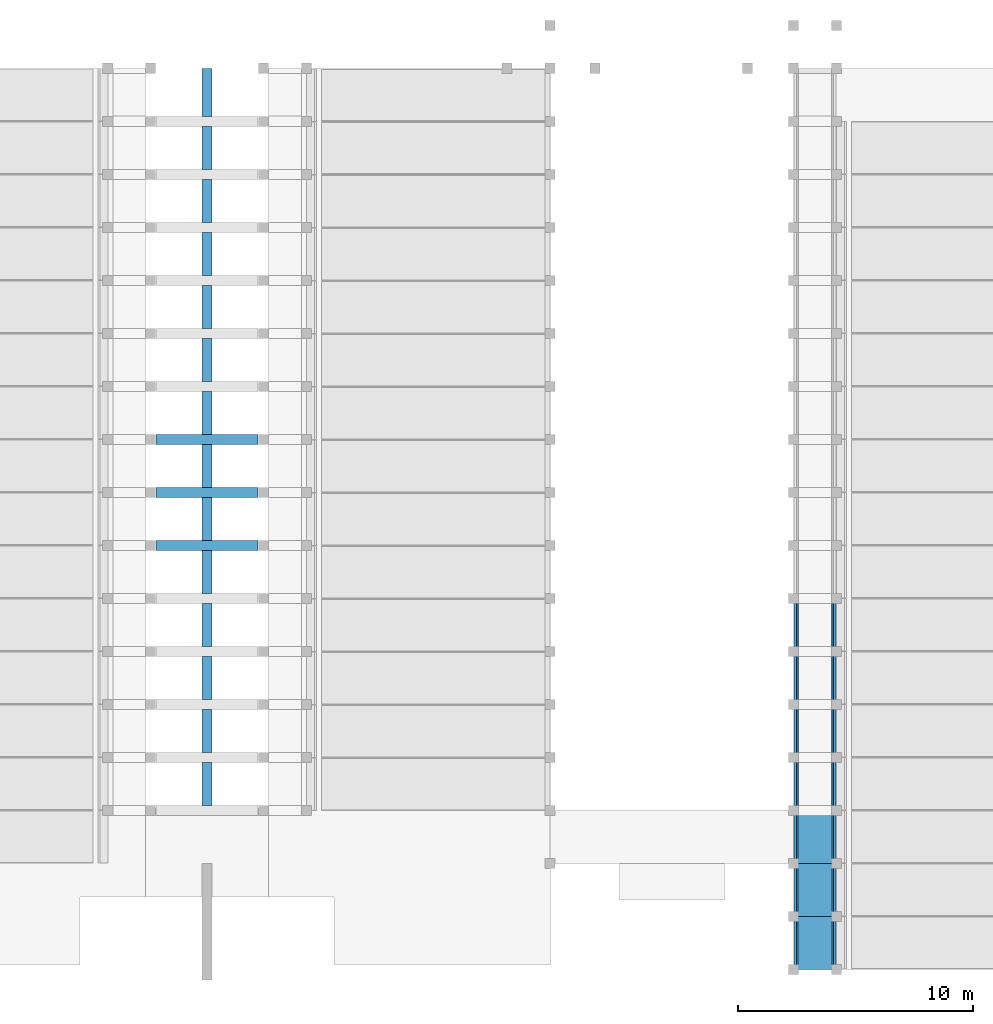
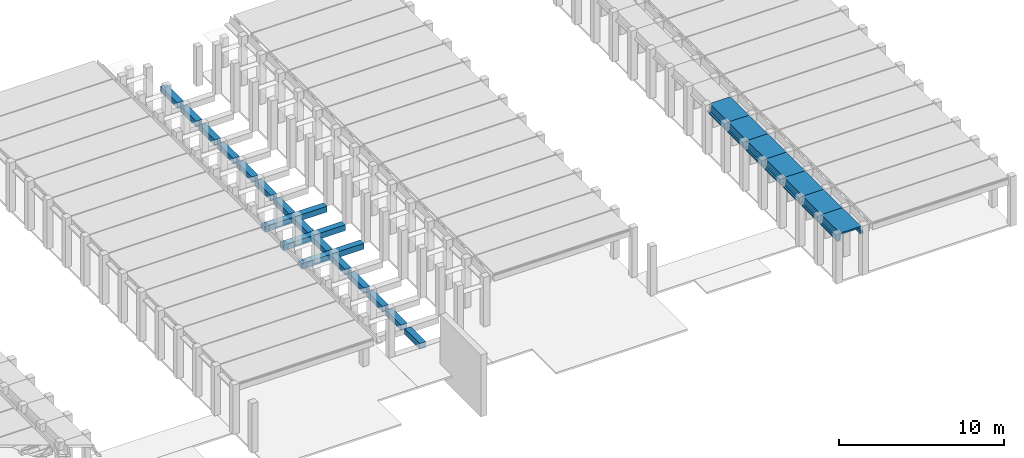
# One storey, part 9 of 18: 11 beams.
"""IFC2X3 building model written with IfcOpenShell, lengths in millimetres."""

from ifc_helpers import new_model, entity, si_unit, converted_unit, derived_unit, direction, frame, frame_2d, origin, place, context, subcontext, project, spatial, polyline, rectangle, outline, extrude, source, transform, mapped, material, type_object, type_shapes, element, save


model = new_model("IFC2X3")

# Units and contexts
model_context = context("Model", 3, precision=0.01, world=origin(), true_north=direction((6.12303176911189e-17, 1.0)))
body_context = subcontext(model_context, "Body", "Model", "MODEL_VIEW")
ifc_project = project(units=[si_unit("LENGTHUNIT", "METRE", prefix="MILLI"), si_unit("AREAUNIT", "SQUARE_METRE"), si_unit("VOLUMEUNIT", "CUBIC_METRE"), converted_unit("PLANEANGLEUNIT", "DEGREE", entity("IfcRatioMeasure", 0.0174532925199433), si_unit("PLANEANGLEUNIT", "RADIAN"), dimensions=[0, 0, 0, 0, 0, 0, 0]), si_unit("MASSUNIT", "GRAM", prefix="KILO"), derived_unit("MASSDENSITYUNIT", [(si_unit("MASSUNIT", "GRAM", prefix="KILO"), 1), (si_unit("LENGTHUNIT", "METRE"), -3)]), derived_unit("MOMENTOFINERTIAUNIT", [(si_unit("LENGTHUNIT", "METRE"), 4)]), si_unit("TIMEUNIT", "SECOND"), si_unit("FREQUENCYUNIT", "HERTZ"), si_unit("THERMODYNAMICTEMPERATUREUNIT", "DEGREE_CELSIUS"), derived_unit("THERMALTRANSMITTANCEUNIT", [(si_unit("MASSUNIT", "GRAM", prefix="KILO"), 1), (si_unit("THERMODYNAMICTEMPERATUREUNIT", "KELVIN"), -1), (si_unit("TIMEUNIT", "SECOND"), -3)]), derived_unit("VOLUMETRICFLOWRATEUNIT", [(si_unit("LENGTHUNIT", "METRE"), 3), (si_unit("TIMEUNIT", "SECOND"), -1)]), si_unit("ELECTRICCURRENTUNIT", "AMPERE"), si_unit("ELECTRICVOLTAGEUNIT", "VOLT"), si_unit("POWERUNIT", "WATT"), si_unit("FORCEUNIT", "NEWTON", prefix="KILO"), si_unit("ILLUMINANCEUNIT", "LUX"), si_unit("LUMINOUSFLUXUNIT", "LUMEN"), si_unit("LUMINOUSINTENSITYUNIT", "CANDELA"), derived_unit("USERDEFINED", [(si_unit("MASSUNIT", "GRAM", prefix="KILO"), -1), (si_unit("LENGTHUNIT", "METRE"), -2), (si_unit("TIMEUNIT", "SECOND"), 3), (si_unit("LUMINOUSFLUXUNIT", "LUMEN"), 1)]), derived_unit("LINEARVELOCITYUNIT", [(si_unit("LENGTHUNIT", "METRE"), 1), (si_unit("TIMEUNIT", "SECOND"), -1)]), si_unit("PRESSUREUNIT", "PASCAL"), derived_unit("USERDEFINED", [(si_unit("LENGTHUNIT", "METRE"), -2), (si_unit("MASSUNIT", "GRAM", prefix="KILO"), 1), (si_unit("TIMEUNIT", "SECOND"), -2)]), derived_unit("LINEARFORCEUNIT", [(si_unit("MASSUNIT", "GRAM", prefix="KILO"), 1), (si_unit("LENGTHUNIT", "METRE"), 1), (si_unit("TIMEUNIT", "SECOND"), -2), (si_unit("LENGTHUNIT", "METRE"), -1)]), derived_unit("PLANARFORCEUNIT", [(si_unit("MASSUNIT", "GRAM", prefix="KILO"), 1), (si_unit("LENGTHUNIT", "METRE"), 1), (si_unit("TIMEUNIT", "SECOND"), -2), (si_unit("LENGTHUNIT", "METRE"), -2)])], contexts=[model_context])

# Site, building, storey
site_placement = place(None, frame((10627.5135316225, 21939.0796949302, 0.0)))
site = spatial("IfcSite", under=ifc_project, at=site_placement, Name="Default", CompositionType="ELEMENT")
building_placement = place(site_placement, origin())
building = spatial("IfcBuilding", under=site, at=building_placement, CompositionType="ELEMENT")
storey_placement = place(building_placement, frame((0.0, 0.0, 3660.0)))
storey = spatial("IfcBuildingStorey", under=building, at=storey_placement, Name="R+1", CompositionType="ELEMENT", Elevation=3660.0)

# Beams
ifc_material = material(Name="Concrete, Precast Smooth, Light Grey")
beam_type_1 = type_object("IfcBeamType", Name="M_Concrete-Rectangular Beam:400 x 800mm", PredefinedType="NOTDEFINED")
beam_1_placement = place(storey_placement, frame((24172.4864683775, 660.920305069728, 0.0)))
element("IfcBeam", 1, at=beam_1_placement, inside=storey, type_object=beam_type_1, material=ifc_material, Name="M_Concrete-Rectangular Beam:400 x 800mm", ObjectType="M_Concrete-Rectangular Beam:400 x 800mm", context=body_context, shape_type="SweptSolid", body=[
    extrude(rectangle(XDim=430.0, YDim=430.000000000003, at=frame_2d((0.0, 1.406874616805e-11), x_axis=(1.0, 0.0))), frame((227.700000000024, 0.0, -215.0), z_axis=(1.0, 0.0, 0.0), x_axis=(0.0, 0.0, -1.0)), (0.0, 0.0, 1.0), 4354.59999999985),
])
beam_2_placement = place(storey_placement, frame((24172.4864683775, -1599.07969493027, 0.0)))
element("IfcBeam", 2, at=beam_2_placement, inside=storey, type_object=beam_type_1, material=ifc_material, Name="M_Concrete-Rectangular Beam:400 x 800mm", ObjectType="M_Concrete-Rectangular Beam:400 x 800mm", context=body_context, shape_type="SweptSolid", body=[
    extrude(rectangle(XDim=430.0, YDim=430.000000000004, at=frame_2d((0.0, 1.39408484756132e-11), x_axis=(1.0, 0.0))), frame((227.700000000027, 0.0, -215.0), z_axis=(1.0, 0.0, 0.0), x_axis=(0.0, 0.0, -1.0)), (0.0, 0.0, 1.0), 4354.59999999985),
])
beam_3_placement = place(storey_placement, frame((24172.4864683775, -3859.07969493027, 0.0)))
element("IfcBeam", 3, at=beam_3_placement, inside=storey, type_object=beam_type_1, material=ifc_material, Name="M_Concrete-Rectangular Beam:400 x 800mm", ObjectType="M_Concrete-Rectangular Beam:400 x 800mm", context=body_context, shape_type="SweptSolid", body=[
    extrude(rectangle(XDim=430.0, YDim=430.000000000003, at=frame_2d((0.0, 1.4352963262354e-11), x_axis=(1.0, 0.0))), frame((227.70000000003, 0.0, -215.0), z_axis=(1.0, 0.0, 0.0), x_axis=(0.0, 0.0, -1.0)), (0.0, 0.0, 1.0), 4354.59999999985),
])
beam_type_2 = type_object("IfcBeamType", Name="M_Concrete-Rectangular Beam:400 x 800mm", PredefinedType="BEAM", material=ifc_material)
shared_shape = source(origin(), body_context, "Body", "SweptSolid", [
    extrude(rectangle(XDim=430.0, YDim=430.000000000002, at=frame_2d((-2.1600499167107e-12, 0.0), x_axis=(0.0, 1.0))), frame((26577.4864683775, 16480.9203050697, 3445.0), z_axis=(0.0, -1.0, 0.0), x_axis=(-1.0, 0.0, 0.0)), (0.0, 0.0, 1.0), 2045.0),
    extrude(rectangle(XDim=430.0, YDim=430.000000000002, at=frame_2d((2.1600499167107e-12, 0.0), x_axis=(0.0, 1.0))), frame((26577.4864683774, -13114.0796949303, 3445.0), z_axis=(0.0, -1.0, 0.0), x_axis=(-1.0, 0.0, 0.0)), (0.0, 0.0, 1.0), 1830.0),
    extrude(rectangle(XDim=430.0, YDim=430.000000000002, at=frame_2d((-2.1600499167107e-12, 2.70006239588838e-13), x_axis=(0.0, 1.0))), frame((26577.4864683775, 14005.9203050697, 3445.0), z_axis=(0.0, -1.0, 0.0), x_axis=(-1.0, 0.0, 0.0)), (0.0, 0.0, 1.0), 1830.0),
    extrude(rectangle(XDim=430.0, YDim=430.000000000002, at=frame_2d((-2.1600499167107e-12, 0.0), x_axis=(0.0, 1.0))), frame((26577.4864683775, 11745.9203050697, 3445.0), z_axis=(0.0, -1.0, 0.0), x_axis=(-1.0, 0.0, 0.0)), (0.0, 0.0, 1.0), 1830.0),
    extrude(rectangle(XDim=430.0, YDim=430.000000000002, at=frame_2d((2.1600499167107e-12, 0.0), x_axis=(0.0, 1.0))), frame((26577.4864683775, 9485.92030506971, 3445.0), z_axis=(0.0, -1.0, 0.0), x_axis=(-1.0, 0.0, 0.0)), (0.0, 0.0, 1.0), 1830.0),
    extrude(rectangle(XDim=430.0, YDim=430.000000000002, at=frame_2d((-2.1600499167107e-12, 0.0), x_axis=(0.0, 1.0))), frame((26577.4864683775, 7225.92030506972, 3445.0), z_axis=(0.0, -1.0, 0.0), x_axis=(-1.0, 0.0, 0.0)), (0.0, 0.0, 1.0), 1830.0),
    extrude(rectangle(XDim=430.0, YDim=430.000000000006, at=frame_2d((-2.1600499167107e-12, 0.0), x_axis=(0.0, 1.0))), frame((26577.4864683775, 4965.92030506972, 3445.0), z_axis=(0.0, -1.0, 0.0), x_axis=(-1.0, 0.0, 0.0)), (0.0, 0.0, 1.0), 1830.0),
    extrude(rectangle(XDim=430.0, YDim=430.000000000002, at=frame_2d((2.1600499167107e-12, 0.0), x_axis=(0.0, 1.0))), frame((26577.4864683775, 2705.92030506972, 3445.0), z_axis=(0.0, -1.0, 0.0), x_axis=(-1.0, 0.0, 0.0)), (0.0, 0.0, 1.0), 1830.0),
    extrude(rectangle(XDim=430.0, YDim=430.000000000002, at=frame_2d((-2.1600499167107e-12, 0.0), x_axis=(0.0, 1.0))), frame((26577.4864683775, 445.920305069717, 3445.0), z_axis=(0.0, -1.0, 0.0), x_axis=(-1.0, 0.0, 0.0)), (0.0, 0.0, 1.0), 1830.0),
    extrude(rectangle(XDim=430.0, YDim=430.000000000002, at=frame_2d((2.1600499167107e-12, 0.0), x_axis=(0.0, 1.0))), frame((26577.4864683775, -1814.07969493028, 3445.0), z_axis=(0.0, -1.0, 0.0), x_axis=(-1.0, 0.0, 0.0)), (0.0, 0.0, 1.0), 1830.0),
    extrude(rectangle(XDim=430.0, YDim=430.000000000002, at=frame_2d((-6.49436060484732e-12, 0.0), x_axis=(0.0, 1.0))), frame((26577.4864683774, -4074.07969493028, 3445.0), z_axis=(0.0, -1.0, 0.0), x_axis=(-1.0, 0.0, 0.0)), (0.0, 0.0, 1.0), 1830.0),
    extrude(rectangle(XDim=430.0, YDim=430.000000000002, at=frame_2d((-2.1600499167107e-12, 0.0), x_axis=(0.0, 1.0))), frame((26577.4864683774, -6334.07969493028, 3445.0), z_axis=(0.0, -1.0, 0.0), x_axis=(-1.0, 0.0, 0.0)), (0.0, 0.0, 1.0), 1830.0),
    extrude(rectangle(XDim=430.0, YDim=430.000000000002, at=frame_2d((-2.1600499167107e-12, 0.0), x_axis=(0.0, 1.0))), frame((26577.4864683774, -8594.07969493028, 3445.0), z_axis=(0.0, -1.0, 0.0), x_axis=(-1.0, 0.0, 0.0)), (0.0, 0.0, 1.0), 1830.0),
    extrude(rectangle(XDim=430.0, YDim=430.000000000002, at=frame_2d((-2.1600499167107e-12, 0.0), x_axis=(0.0, 1.0))), frame((26577.4864683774, -10854.0796949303, 3445.0), z_axis=(0.0, -1.0, 0.0), x_axis=(-1.0, 0.0, 0.0)), (0.0, 0.0, 1.0), 1830.0),
])
type_shapes(beam_type_2, [shared_shape])
beam_4_placement = place(storey_placement, frame((0.0, 0.0, -3660.0)))
element("IfcBeam", 4, at=beam_4_placement, inside=storey, type_object=beam_type_2, material=ifc_material, Name="M_Concrete-Rectangular Beam:400 x 800mm", ObjectType="M_Concrete-Rectangular Beam:400 x 800mm", context=body_context, shape_type="MappedRepresentation", body=[
    mapped(shared_shape, transform((0.0, 0.0, 0.0), scale=1.0)),
])
beam_type_3 = type_object("IfcBeamType", Name="Poutre petite:Poutre petite", PredefinedType="NOTDEFINED")
for number, where, z_axis, x_axis, name in (
    (5, (52487.4864683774, -8379.07969493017, 3530.0), (0.0, 0.0, 1.0), (0.0, 1.0, 0.0), "Poutre petite:Poutre petite"),
    (6, (52487.4864683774, -10639.0796949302, 3530.0), (0.0, 0.0, 1.0), (0.0, 1.0, 0.0), "Poutre petite:Poutre petite"),
    (7, (52487.4864683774, -12899.0796949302, 3530.0), (0.0, 0.0, 1.0), (0.0, 1.0, 0.0), "Poutre petite:Poutre petite"),
    (8, (52487.4864683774, -15159.0796949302, 3530.0), (0.0, 0.0, 1.0), (0.0, 1.0, 0.0), "Poutre petite:Poutre petite"),
    (9, (52487.4864683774, -17419.0796949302, 3530.0), (0.0, 0.0, 1.0), (0.0, 1.0, 0.0), "Poutre petite:Poutre petite"),
    (10, (52487.4864683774, -19679.0796949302, 3530.0), (0.0, 0.0, 1.0), (0.0, 1.0, 0.0), "Poutre petite:Poutre petite"),
    (11, (52487.4864683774, -21939.0796949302, 3530.0), (0.0, 0.0, 1.0), (0.0, 1.0, 0.0), "Poutre petite:Poutre petite"),
):
    element("IfcBeam", number, at=place(storey_placement, frame(where, z_axis=z_axis, x_axis=x_axis)), inside=storey, type_object=beam_type_3, material=ifc_material, Name=name, ObjectType="Poutre petite:Poutre petite", context=body_context, shape_type="SweptSolid", body=[
        extrude(outline(polyline([(103.333217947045, -905.014058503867), (203.333564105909, -905.014058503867), (203.333564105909, -700.0135432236), (-246.666782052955, -640.013497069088), (-246.666782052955, 640.013684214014), (203.333564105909, 700.013730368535), (203.333564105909, 905.013684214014), (103.333217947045, 905.013684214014), (103.333217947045, 785.013684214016), (-366.666782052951, 725.01368421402), (-366.666782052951, -725.013497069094), (103.333217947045, -785.013497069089), (103.333217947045, -905.014058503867)])), frame((0.0, 0.000187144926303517, -366.666782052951), z_axis=(1.0, 0.0, 0.0), x_axis=(0.0, 0.0, -1.0)), (0.0, 0.0, 1.0), 2260.0),
    ])

save(model, "model.ifc")
